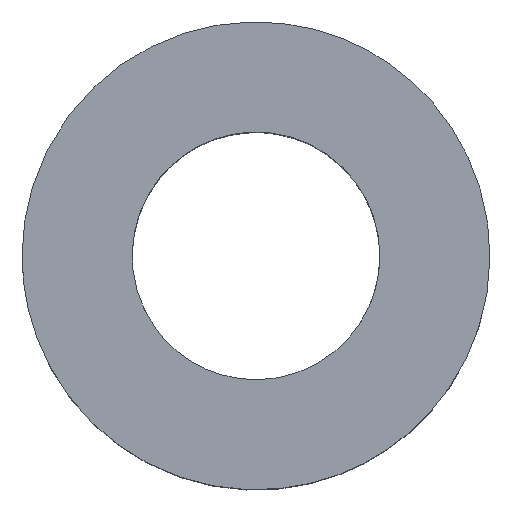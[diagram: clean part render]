
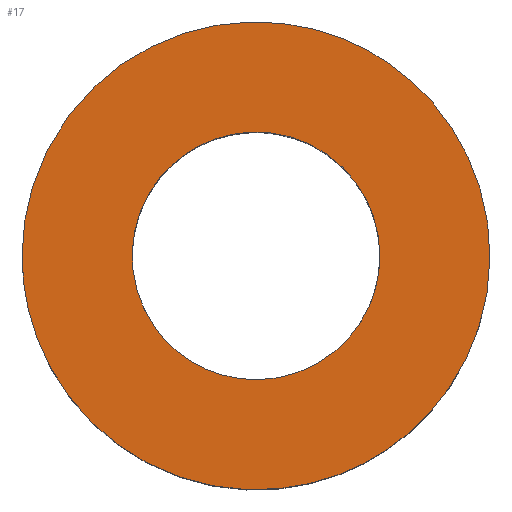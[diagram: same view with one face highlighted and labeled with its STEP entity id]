
A CAD part, top view. The second image highlights one B-rep face of the part: STEP entity #17.
In plain terms, the highlighted free-form (B-spline) face has degree [1, 1] with [2, 2] control points.
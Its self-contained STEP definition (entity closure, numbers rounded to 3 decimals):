
#17 = ADVANCED_FACE('',(#18,#32),#46,.T.);
#18 = FACE_BOUND('',#19,.T.);
#19 = EDGE_LOOP('',(#20));
#20 = ORIENTED_EDGE('',*,*,#21,.F.);
#21 = EDGE_CURVE('',#22,#22,#24,.T.);
#22 = VERTEX_POINT('',#23);
#23 = CARTESIAN_POINT('',(1.35,0.,2.5));
#24 = ( BOUNDED_CURVE() B_SPLINE_CURVE(2,(#25,#26,#27,#28,#29,#30,#31),
.UNSPECIFIED.,.T.,.F.) B_SPLINE_CURVE_WITH_KNOTS((1,2,2,2,2,1),(
    -2.094,0.,2.094,4.189,6.283,
8.378),.UNSPECIFIED.) CURVE() GEOMETRIC_REPRESENTATION_ITEM() 
RATIONAL_B_SPLINE_CURVE((1.,0.5,1.,0.5,1.,0.5,1.)) REPRESENTATION_ITEM(
  '') );
#25 = CARTESIAN_POINT('',(1.35,0.,2.5));
#26 = CARTESIAN_POINT('',(1.35,2.338,2.5));
#27 = CARTESIAN_POINT('',(-0.675,1.169,2.5));
#28 = CARTESIAN_POINT('',(-2.7,0.,2.5));
#29 = CARTESIAN_POINT('',(-0.675,-1.169,2.5));
#30 = CARTESIAN_POINT('',(1.35,-2.338,2.5));
#31 = CARTESIAN_POINT('',(1.35,0.,2.5));
#32 = FACE_BOUND('',#33,.T.);
#33 = EDGE_LOOP('',(#34));
#34 = ORIENTED_EDGE('',*,*,#35,.F.);
#35 = EDGE_CURVE('',#36,#36,#38,.T.);
#36 = VERTEX_POINT('',#37);
#37 = CARTESIAN_POINT('',(-2.55,0.,2.5));
#38 = ( BOUNDED_CURVE() B_SPLINE_CURVE(2,(#39,#40,#41,#42,#43,#44,#45),
.UNSPECIFIED.,.T.,.F.) B_SPLINE_CURVE_WITH_KNOTS((1,2,2,2,2,1),(
    -2.094,0.,2.094,4.189,6.283,
8.378),.UNSPECIFIED.) CURVE() GEOMETRIC_REPRESENTATION_ITEM() 
RATIONAL_B_SPLINE_CURVE((1.,0.5,1.,0.5,1.,0.5,1.)) REPRESENTATION_ITEM(
  '') );
#39 = CARTESIAN_POINT('',(-2.55,0.,2.5));
#40 = CARTESIAN_POINT('',(-2.55,4.417,2.5));
#41 = CARTESIAN_POINT('',(1.275,2.208,2.5));
#42 = CARTESIAN_POINT('',(5.1,0.,2.5));
#43 = CARTESIAN_POINT('',(1.275,-2.208,2.5));
#44 = CARTESIAN_POINT('',(-2.55,-4.417,2.5));
#45 = CARTESIAN_POINT('',(-2.55,0.,2.5));
#46 = B_SPLINE_SURFACE_WITH_KNOTS('',1,1,(
    (#47,#48)
    ,(#49,#50
    )),.UNSPECIFIED.,.F.,.F.,.F.,(2,2),(2,2),(0.,5.1),(
    -2.55,2.55),.PIECEWISE_BEZIER_KNOTS.);
#47 = CARTESIAN_POINT('',(-2.55,-2.55,2.5));
#48 = CARTESIAN_POINT('',(-2.55,2.55,2.5));
#49 = CARTESIAN_POINT('',(2.55,-2.55,2.5));
#50 = CARTESIAN_POINT('',(2.55,2.55,2.5));
